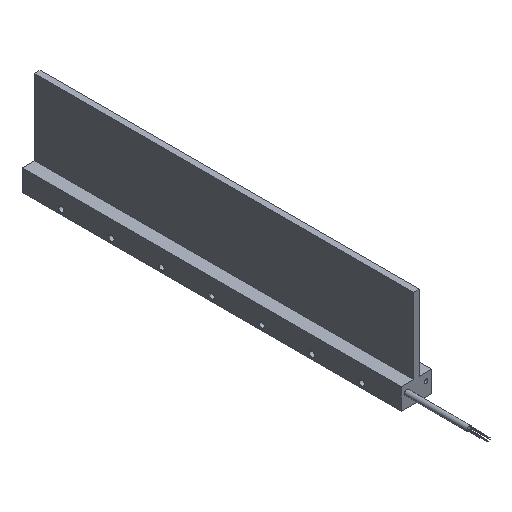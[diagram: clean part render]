
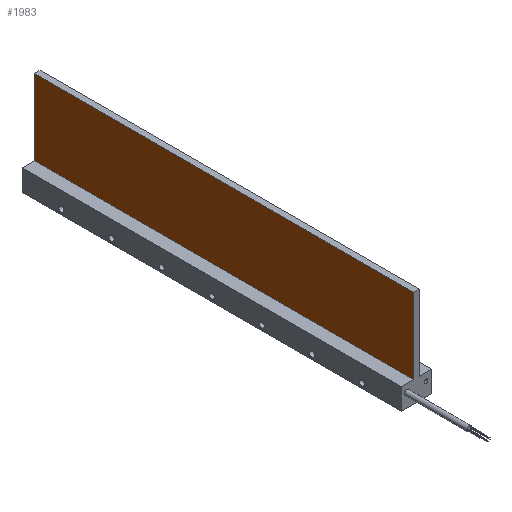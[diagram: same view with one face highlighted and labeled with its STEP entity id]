
A CAD part, isometric view. The second image highlights one B-rep face of the part: STEP entity #1983.
In plain terms, the highlighted planar face has unit normal (-1, 0, 0).
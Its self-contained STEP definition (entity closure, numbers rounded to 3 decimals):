
#21=DIRECTION('',(0.,0.,1.));
#22=VECTOR('',#21,60.3);
#23=CARTESIAN_POINT('',(-2.2,-151.41,0.));
#24=LINE('',#23,#22);
#71=DIRECTION('',(0.,1.,0.));
#72=VECTOR('',#71,302.82);
#73=CARTESIAN_POINT('',(-2.2,-151.41,60.3));
#74=LINE('',#73,#72);
#75=DIRECTION('',(0.,1.,0.));
#76=VECTOR('',#75,302.82);
#77=CARTESIAN_POINT('',(-2.2,-151.41,0.));
#78=LINE('',#77,#76);
#367=DIRECTION('',(0.,0.,1.));
#368=VECTOR('',#367,60.3);
#369=CARTESIAN_POINT('',(-2.2,151.41,0.));
#370=LINE('',#369,#368);
#1479=CARTESIAN_POINT('',(-2.2,-151.41,0.));
#1480=VERTEX_POINT('',#1479);
#1481=CARTESIAN_POINT('',(-2.2,-151.41,60.3));
#1482=VERTEX_POINT('',#1481);
#1495=CARTESIAN_POINT('',(-2.2,151.41,0.));
#1496=VERTEX_POINT('',#1495);
#1497=CARTESIAN_POINT('',(-2.2,151.41,60.3));
#1498=VERTEX_POINT('',#1497);
#1970=CARTESIAN_POINT('',(-2.2,-151.41,0.));
#1971=DIRECTION('',(-1.,0.,0.));
#1972=DIRECTION('',(0.,0.,1.));
#1973=AXIS2_PLACEMENT_3D('',#1970,#1971,#1972);
#1974=PLANE('',#1973);
#1975=ORIENTED_EDGE('',*,*,#1900,.F.);
#1977=ORIENTED_EDGE('',*,*,#1976,.T.);
#1979=ORIENTED_EDGE('',*,*,#1978,.T.);
#1980=ORIENTED_EDGE('',*,*,#1962,.F.);
#1981=EDGE_LOOP('',(#1975,#1977,#1979,#1980));
#1982=FACE_OUTER_BOUND('',#1981,.F.);
#1983=ADVANCED_FACE('',(#1982),#1974,.T.);
#1900=EDGE_CURVE('',#1480,#1482,#24,.T.);
#1962=EDGE_CURVE('',#1482,#1498,#74,.T.);
#1976=EDGE_CURVE('',#1480,#1496,#78,.T.);
#1978=EDGE_CURVE('',#1496,#1498,#370,.T.);
